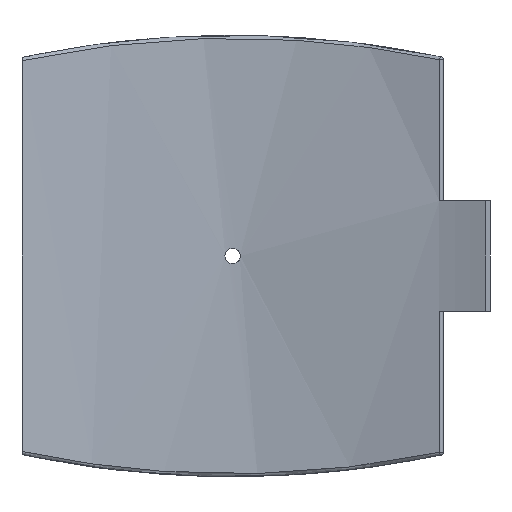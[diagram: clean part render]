
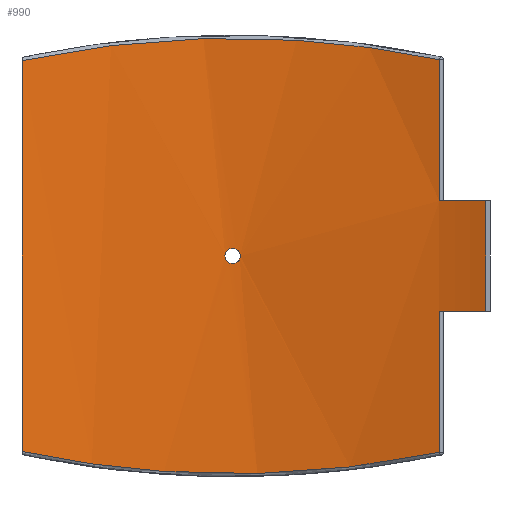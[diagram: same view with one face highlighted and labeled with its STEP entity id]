
A CAD part, front view. The second image highlights one B-rep face of the part: STEP entity #990.
In plain terms, the highlighted cylindrical face has radius 450 mm (diameter 900 mm), a partial arc.
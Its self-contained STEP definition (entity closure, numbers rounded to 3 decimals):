
#55=FACE_BOUND('',#331,.T.);
#101=B_SPLINE_CURVE_WITH_KNOTS('',3,(#2015,#2016,#2017,#2018,#2019,#2020,
#2021),.UNSPECIFIED.,.F.,.F.,(4,1,1,1,4),(-32.899,-24.563,
-16.227,-7.891,-3.723),.UNSPECIFIED.);
#102=B_SPLINE_CURVE_WITH_KNOTS('',3,(#2030,#2031,#2032,#2033,#2034,#2035,
#2036),.UNSPECIFIED.,.F.,.F.,(4,1,1,1,4),(-29.804,-25.636,
-17.3,-8.964,-0.628),.UNSPECIFIED.);
#103=B_SPLINE_CURVE_WITH_KNOTS('',3,(#2039,#2040,#2041,#2042,#2043,#2044,
#2045,#2046,#2047,#2048),.UNSPECIFIED.,.F.,.F.,(4,2,2,2,4),(0.,0.196,
0.392,0.588,0.784),.UNSPECIFIED.);
#104=B_SPLINE_CURVE_WITH_KNOTS('',3,(#2049,#2050,#2051,#2052,#2053,#2054,
#2055,#2056,#2057,#2058,#2059,#2060,#2061,#2062,#2063,#2064,#2065,#2066,
#2067,#2068,#2069,#2070,#2071,#2072,#2073,#2074),.UNSPECIFIED.,.F.,.F.,
(4,2,2,2,2,2,2,2,2,2,2,2,4),(0.784,0.979,1.175,
1.371,1.567,1.763,1.959,2.155,
2.351,2.546,2.742,2.938,3.134),
 .UNSPECIFIED.);
#125=LINE('',#1483,#172);
#136=LINE('',#1753,#183);
#143=LINE('',#2026,#190);
#144=LINE('',#2029,#191);
#172=VECTOR('',#1188,10.);
#183=VECTOR('',#1227,10.);
#190=VECTOR('',#1264,10.);
#191=VECTOR('',#1267,10.);
#228=CYLINDRICAL_SURFACE('',#1083,450.);
#268=FACE_OUTER_BOUND('',#330,.T.);
#330=EDGE_LOOP('',(#775,#776,#777,#778,#779,#780,#781,#782));
#331=EDGE_LOOP('',(#783,#784));
#413=CIRCLE('',#1084,450.);
#414=CIRCLE('',#1085,450.);
#466=VERTEX_POINT('',#1474);
#469=VERTEX_POINT('',#1481);
#489=VERTEX_POINT('',#1746);
#492=VERTEX_POINT('',#1751);
#505=VERTEX_POINT('',#2004);
#506=VERTEX_POINT('',#2023);
#507=VERTEX_POINT('',#2025);
#508=VERTEX_POINT('',#2028);
#509=VERTEX_POINT('',#2037);
#510=VERTEX_POINT('',#2038);
#561=EDGE_CURVE('',#469,#466,#125,.T.);
#591=EDGE_CURVE('',#492,#489,#136,.T.);
#614=EDGE_CURVE('',#505,#492,#101,.T.);
#615=EDGE_CURVE('',#506,#469,#413,.T.);
#616=EDGE_CURVE('',#506,#507,#143,.T.);
#617=EDGE_CURVE('',#489,#507,#414,.T.);
#618=EDGE_CURVE('',#508,#505,#144,.T.);
#619=EDGE_CURVE('',#466,#508,#102,.T.);
#620=EDGE_CURVE('',#509,#510,#103,.T.);
#621=EDGE_CURVE('',#510,#509,#104,.T.);
#775=ORIENTED_EDGE('',*,*,#615,.F.);
#776=ORIENTED_EDGE('',*,*,#616,.T.);
#777=ORIENTED_EDGE('',*,*,#617,.F.);
#778=ORIENTED_EDGE('',*,*,#591,.F.);
#779=ORIENTED_EDGE('',*,*,#614,.F.);
#780=ORIENTED_EDGE('',*,*,#618,.F.);
#781=ORIENTED_EDGE('',*,*,#619,.F.);
#782=ORIENTED_EDGE('',*,*,#561,.F.);
#783=ORIENTED_EDGE('',*,*,#620,.T.);
#784=ORIENTED_EDGE('',*,*,#621,.T.);
#990=ADVANCED_FACE('',(#268,#55),#228,.F.);
#1083=AXIS2_PLACEMENT_3D('',#2022,#1260,#1261);
#1084=AXIS2_PLACEMENT_3D('',#2024,#1262,#1263);
#1085=AXIS2_PLACEMENT_3D('',#2027,#1265,#1266);
#1188=DIRECTION('',(0.,0.,-1.));
#1227=DIRECTION('',(0.,0.,-1.));
#1260=DIRECTION('center_axis',(0.,0.,1.));
#1261=DIRECTION('ref_axis',(-1.,0.,0.));
#1262=DIRECTION('center_axis',(0.,0.,1.));
#1263=DIRECTION('ref_axis',(-0.382,-0.924,0.));
#1264=DIRECTION('',(0.,0.,1.));
#1265=DIRECTION('center_axis',(0.,0.,-1.));
#1266=DIRECTION('ref_axis',(-0.382,-0.924,0.));
#1267=DIRECTION('',(0.,0.,1.));
#1474=CARTESIAN_POINT('',(140.476,427.512,-133.378));
#1481=CARTESIAN_POINT('',(140.476,427.512,-37.5));
#1483=CARTESIAN_POINT('',(140.476,427.512,0.));
#1746=CARTESIAN_POINT('',(140.476,427.512,37.5));
#1751=CARTESIAN_POINT('',(140.476,427.512,133.378));
#1753=CARTESIAN_POINT('',(140.476,427.512,0.));
#2004=CARTESIAN_POINT('',(-143.1,426.641,132.82));
#2015=CARTESIAN_POINT('Ctrl Pts',(-143.1,426.641,132.82));
#2016=CARTESIAN_POINT('Ctrl Pts',(-117.394,435.263,138.335));
#2017=CARTESIAN_POINT('Ctrl Pts',(-63.878,448.018,146.681));
#2018=CARTESIAN_POINT('Ctrl Pts',(19.492,452.153,149.428));
#2019=CARTESIAN_POINT('Ctrl Pts',(88.166,442.768,143.222));
#2020=CARTESIAN_POINT('Ctrl Pts',(127.588,431.747,136.09));
#2021=CARTESIAN_POINT('Ctrl Pts',(140.476,427.512,133.378));
#2022=CARTESIAN_POINT('Origin',(0.,0.,0.));
#2023=CARTESIAN_POINT('',(171.947,415.854,-37.5));
#2024=CARTESIAN_POINT('Origin',(0.,0.,
-37.5));
#2025=CARTESIAN_POINT('',(171.947,415.854,37.5));
#2026=CARTESIAN_POINT('',(171.947,415.854,0.));
#2027=CARTESIAN_POINT('Origin',(0.,0.,
37.5));
#2028=CARTESIAN_POINT('',(-143.1,426.641,-132.82));
#2029=CARTESIAN_POINT('',(-143.1,426.641,0.));
#2030=CARTESIAN_POINT('Ctrl Pts',(140.476,427.512,-133.378));
#2031=CARTESIAN_POINT('Ctrl Pts',(127.588,431.747,-136.09));
#2032=CARTESIAN_POINT('Ctrl Pts',(88.166,442.768,-143.222));
#2033=CARTESIAN_POINT('Ctrl Pts',(19.492,452.153,-149.428));
#2034=CARTESIAN_POINT('Ctrl Pts',(-63.878,448.018,-146.681));
#2035=CARTESIAN_POINT('Ctrl Pts',(-117.394,435.263,-138.335));
#2036=CARTESIAN_POINT('Ctrl Pts',(-143.1,426.641,-132.82));
#2037=CARTESIAN_POINT('',(5.2,449.97,0.));
#2038=CARTESIAN_POINT('',(0.,450.,-5.2));
#2039=CARTESIAN_POINT('Ctrl Pts',(5.2,449.97,0.));
#2040=CARTESIAN_POINT('Ctrl Pts',(5.2,449.97,-0.653));
#2041=CARTESIAN_POINT('Ctrl Pts',(5.07,449.972,-1.349));
#2042=CARTESIAN_POINT('Ctrl Pts',(4.539,449.977,-2.631));
#2043=CARTESIAN_POINT('Ctrl Pts',(4.139,449.981,-3.215));
#2044=CARTESIAN_POINT('Ctrl Pts',(3.215,449.989,-4.139));
#2045=CARTESIAN_POINT('Ctrl Pts',(2.631,449.993,-4.539));
#2046=CARTESIAN_POINT('Ctrl Pts',(1.349,449.998,-5.07));
#2047=CARTESIAN_POINT('Ctrl Pts',(0.653,450.,-5.2));
#2048=CARTESIAN_POINT('Ctrl Pts',(0.,450.,-5.2));
#2049=CARTESIAN_POINT('Ctrl Pts',(0.,450.,-5.2));
#2050=CARTESIAN_POINT('Ctrl Pts',(-0.653,450.,-5.2));
#2051=CARTESIAN_POINT('Ctrl Pts',(-1.349,449.998,-5.07));
#2052=CARTESIAN_POINT('Ctrl Pts',(-2.631,449.993,-4.539));
#2053=CARTESIAN_POINT('Ctrl Pts',(-3.215,449.989,-4.139));
#2054=CARTESIAN_POINT('Ctrl Pts',(-4.139,449.981,-3.215));
#2055=CARTESIAN_POINT('Ctrl Pts',(-4.539,449.977,-2.631));
#2056=CARTESIAN_POINT('Ctrl Pts',(-5.07,449.972,-1.349));
#2057=CARTESIAN_POINT('Ctrl Pts',(-5.2,449.97,-0.653));
#2058=CARTESIAN_POINT('Ctrl Pts',(-5.2,449.97,0.653));
#2059=CARTESIAN_POINT('Ctrl Pts',(-5.07,449.972,1.349));
#2060=CARTESIAN_POINT('Ctrl Pts',(-4.539,449.977,2.631));
#2061=CARTESIAN_POINT('Ctrl Pts',(-4.139,449.981,3.215));
#2062=CARTESIAN_POINT('Ctrl Pts',(-3.215,449.989,4.139));
#2063=CARTESIAN_POINT('Ctrl Pts',(-2.631,449.993,4.539));
#2064=CARTESIAN_POINT('Ctrl Pts',(-1.349,449.998,5.07));
#2065=CARTESIAN_POINT('Ctrl Pts',(-0.653,450.,5.2));
#2066=CARTESIAN_POINT('Ctrl Pts',(0.653,450.,5.2));
#2067=CARTESIAN_POINT('Ctrl Pts',(1.349,449.998,5.07));
#2068=CARTESIAN_POINT('Ctrl Pts',(2.631,449.993,4.539));
#2069=CARTESIAN_POINT('Ctrl Pts',(3.215,449.989,4.139));
#2070=CARTESIAN_POINT('Ctrl Pts',(4.139,449.981,3.215));
#2071=CARTESIAN_POINT('Ctrl Pts',(4.539,449.977,2.631));
#2072=CARTESIAN_POINT('Ctrl Pts',(5.07,449.972,1.349));
#2073=CARTESIAN_POINT('Ctrl Pts',(5.2,449.97,0.653));
#2074=CARTESIAN_POINT('Ctrl Pts',(5.2,449.97,0.));
